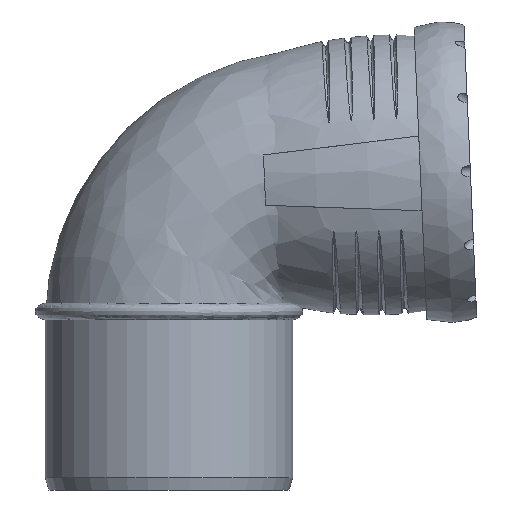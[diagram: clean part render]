
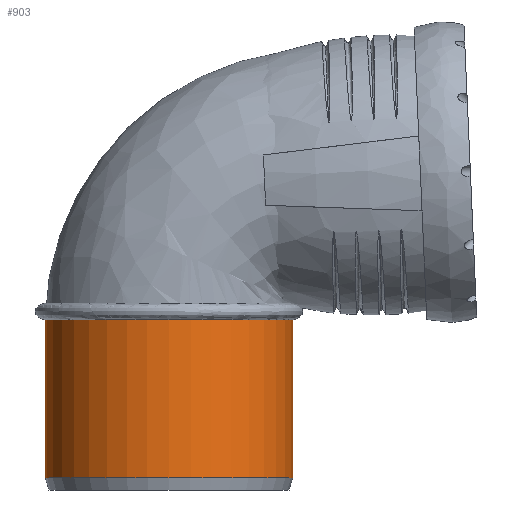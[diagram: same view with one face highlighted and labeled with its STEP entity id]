
A CAD part, front view. The second image highlights one B-rep face of the part: STEP entity #903.
In plain terms, the highlighted cylindrical face has radius 45.1 mm (diameter 90.2 mm), a full revolution.
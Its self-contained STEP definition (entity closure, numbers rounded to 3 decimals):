
#43=FACE_BOUND('',#157,.T.);
#70=CYLINDRICAL_SURFACE('',#970,45.1);
#103=FACE_OUTER_BOUND('',#156,.T.);
#156=EDGE_LOOP('',(#589,#590,#591));
#157=EDGE_LOOP('',(#592));
#242=CIRCLE('',#959,45.1);
#244=CIRCLE('',#962,45.1);
#248=CIRCLE('',#971,45.1);
#249=CIRCLE('',#972,45.1);
#351=VERTEX_POINT('',#1438);
#355=VERTEX_POINT('',#1517);
#356=VERTEX_POINT('',#1525);
#360=VERTEX_POINT('',#1542);
#450=EDGE_CURVE('',#356,#355,#242,.T.);
#453=EDGE_CURVE('',#351,#356,#244,.T.);
#457=EDGE_CURVE('',#355,#351,#248,.T.);
#458=EDGE_CURVE('',#360,#360,#249,.T.);
#589=ORIENTED_EDGE('',*,*,#457,.T.);
#590=ORIENTED_EDGE('',*,*,#453,.T.);
#591=ORIENTED_EDGE('',*,*,#450,.T.);
#592=ORIENTED_EDGE('',*,*,#458,.F.);
#903=ADVANCED_FACE('',(#103,#43),#70,.T.);
#959=AXIS2_PLACEMENT_3D('',#1526,#1055,#1056);
#962=AXIS2_PLACEMENT_3D('',#1530,#1061,#1062);
#970=AXIS2_PLACEMENT_3D('',#1540,#1077,#1078);
#971=AXIS2_PLACEMENT_3D('',#1541,#1079,#1080);
#972=AXIS2_PLACEMENT_3D('',#1543,#1081,#1082);
#1055=DIRECTION('center_axis',(0.,0.,-1.));
#1056=DIRECTION('ref_axis',(1.,0.,0.));
#1061=DIRECTION('center_axis',(0.,0.,-1.));
#1062=DIRECTION('ref_axis',(1.,0.,0.));
#1077=DIRECTION('center_axis',(0.,0.,-1.));
#1078=DIRECTION('ref_axis',(0.,1.,0.));
#1079=DIRECTION('center_axis',(0.,0.,-1.));
#1080=DIRECTION('ref_axis',(1.,0.,0.));
#1081=DIRECTION('center_axis',(0.,0.,-1.));
#1082=DIRECTION('ref_axis',(1.,0.,0.));
#1438=CARTESIAN_POINT('',(0.,-45.1,62.));
#1517=CARTESIAN_POINT('',(0.,45.1,62.));
#1525=CARTESIAN_POINT('',(-45.1,0.,62.));
#1526=CARTESIAN_POINT('Origin',(0.,0.,62.));
#1530=CARTESIAN_POINT('Origin',(0.,0.,62.));
#1540=CARTESIAN_POINT('Origin',(0.,0.,33.25));
#1541=CARTESIAN_POINT('Origin',(0.,0.,62.));
#1542=CARTESIAN_POINT('',(0.,45.1,4.5));
#1543=CARTESIAN_POINT('Origin',(0.,0.,4.5));
